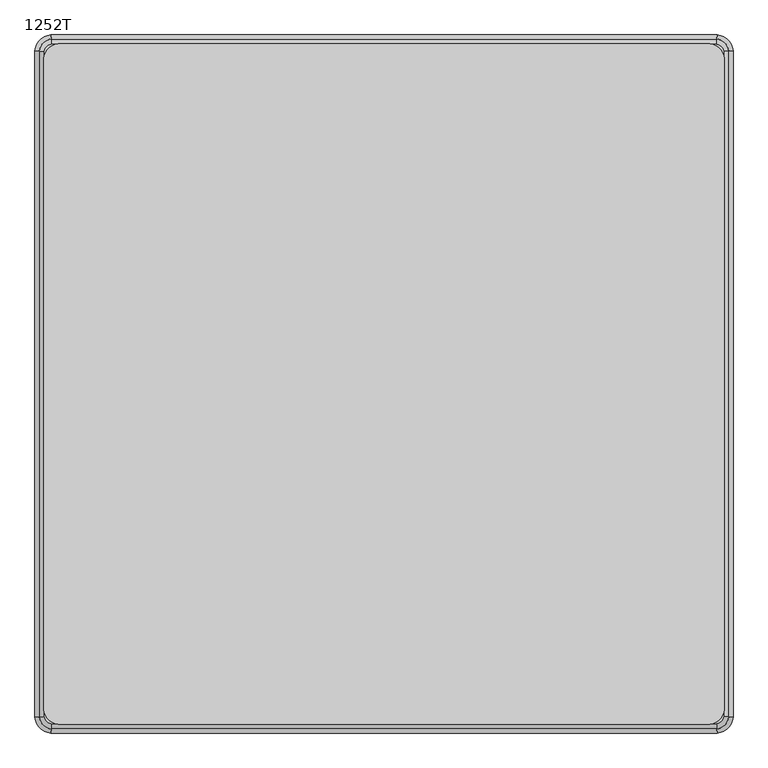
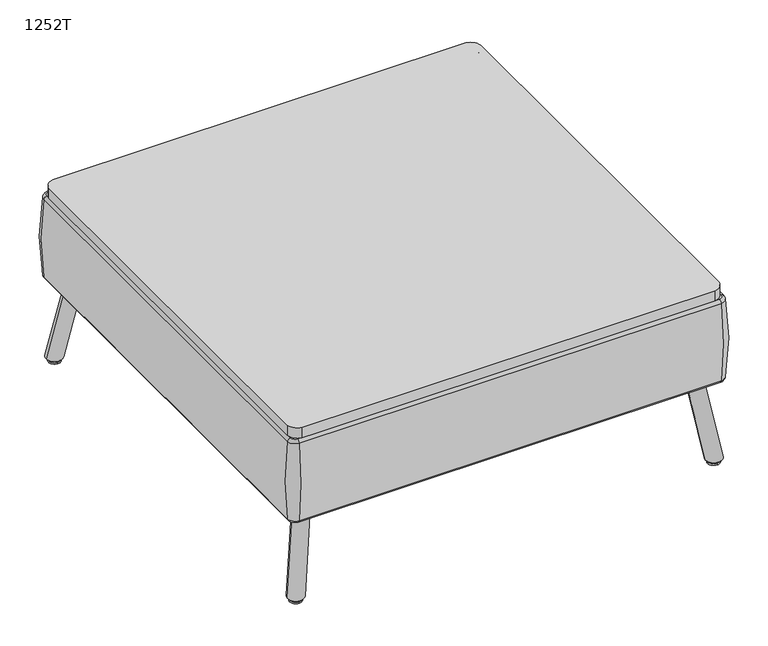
"""IFC4 building model written with IfcOpenShell, lengths in millimetres: furniture geometry, Laguna-Square_Ottomans-With_Legs-ERG : 1252T."""

from ifc_helpers import new_model, si_unit, point, frame, frame_2d, origin, place, context, project, spatial, polyline, circle_curve, ellipse_curve, trimmed, segment, composite_curve, outline, extrude, source, transform, mapped, element, save
from ifc_brep_helpers import plane_surface, cylinder_surface, revolved_surface, spline_surface, advanced_brep


def furniture_1252t_70c4c174(model_context):
    return source(origin(), model_context, "Body", "SolidModel", [
        extrude(outline(composite_curve([segment(trimmed(circle_curve(frame_2d((-3881.4372587, 452.8509326)), 25.4), [point((-3856.3001244, 449.2061449))], [point((-3877.792471, 427.7137983))], False, "CARTESIAN"), True, "CONTINUOUS"), segment(trimmed(circle_curve(frame_2d((-4357.9421763, 6765.4759155)), 6355.9241967), [point((-3877.792471, 427.7137983))], [point((-4838.0918816, 427.7137983))], False, "CARTESIAN"), True, "CONTINUOUS"), segment(trimmed(circle_curve(frame_2d((-4834.4470939, 452.8509326)), 25.4), [point((-4838.0918816, 427.7137983))], [point((-4859.5842282, 449.2061449))], False, "CARTESIAN"), True, "CONTINUOUS"), segment(trimmed(circle_curve(frame_2d((1478.177889, 929.3558502)), 6355.9241967), [point((-4859.5842282, 449.2061449))], [point((-4859.5842282, 1409.5055555))], False, "CARTESIAN"), True, "CONTINUOUS"), segment(trimmed(circle_curve(frame_2d((-4834.4470939, 1405.8607677)), 25.4), [point((-4859.5842282, 1409.5055555))], [point((-4838.0918816, 1430.9979021))], False, "CARTESIAN"), True, "CONTINUOUS"), segment(trimmed(circle_curve(frame_2d((-4357.9421763, -4906.7642152)), 6355.9241967), [point((-4838.0918816, 1430.9979021))], [point((-3877.792471, 1430.9979021))], False, "CARTESIAN"), True, "CONTINUOUS"), segment(trimmed(circle_curve(frame_2d((-3881.4372587, 1405.8607677)), 25.4), [point((-3877.792471, 1430.9979021))], [point((-3856.3001244, 1409.5055555))], False, "CARTESIAN"), True, "CONTINUOUS"), segment(trimmed(circle_curve(frame_2d((-10194.0622416, 929.3558502)), 6355.9241967), [point((-3856.3001244, 1409.5055555))], [point((-3856.3001244, 449.2061449))], False, "CARTESIAN"), True, "CONTINUOUS")], self_intersect=False)), frame((0.0, 0.0, 406.4), z_axis=(0.0, 0.0, 1.0), x_axis=(1.0, 0.0, 0.0)), (0.0, 0.0, 1.0), 25.4),
        advanced_brep(
        [(-4847.9816838, 1430.0057923, 406.4), (-4858.5921184, 1419.3953577, 406.4), (-4858.5921184, 439.3163426, 406.4), (-4847.9816838, 428.705908, 406.4), (-3867.9026688, 428.705908, 406.4), (-3857.2922342, 439.3163426, 406.4), (-3857.2922342, 1419.3953577, 406.4), (-3867.9026688, 1430.0057923, 406.4), (-4858.5921184, 1419.3953577, 203.2), (-4847.9816838, 1430.0057923, 203.2), (-3867.9026688, 1430.0057923, 203.2), (-3857.2922342, 1419.3953577, 203.2), (-3857.2922342, 439.3163426, 203.2), (-3867.9026688, 428.705908, 203.2), (-4847.9816838, 428.705908, 203.2), (-4858.5921184, 439.3163426, 203.2), (-4866.1226616, 1419.9765501, 399.7887299), (-4848.5628762, 1437.5363354, 399.7887299), (-4848.5628762, 1437.5363354, 209.8112701), (-4866.1226616, 1419.9765501, 209.8112701), (-4866.1226616, 438.7351503, 209.8112701), (-4866.1226616, 438.7351503, 399.7887299), (-4848.5628762, 421.1753649, 209.8112701), (-4848.5628762, 421.1753649, 399.7887299), (-3867.3214764, 421.1753649, 209.8112701), (-3867.3214764, 421.1753649, 399.7887299), (-3849.7616911, 438.7351503, 209.8112701), (-3849.7616911, 438.7351503, 399.7887299), (-3849.7616911, 1419.9765501, 209.8112701), (-3849.7616911, 1419.9765501, 399.7887299), (-3867.3214764, 1437.5363354, 209.8112701), (-3867.3214764, 1437.5363354, 399.7887299)],
        [
            (0, 1, circle_curve(frame((-4847.0943054, 1418.5079793, 406.4), z_axis=(0.0, 0.0, 1.0), x_axis=(-0.07694918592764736, 0.997035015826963, 0.0)), 11.5320052)),
            (1, 2, circle_curve(frame((1490.877889, 929.3558502, 406.4), z_axis=(0.0, 0.0, 1.0), x_axis=(-0.9970350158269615, 0.07694918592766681, 0.0)), 6368.3520706)),
            (2, 3, circle_curve(frame((-4847.0943054, 440.2037211, 406.4), z_axis=(0.0, 0.0, 1.0), x_axis=(-0.9970350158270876, -0.07694918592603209, 0.0)), 11.5320052)),
            (3, 4, circle_curve(frame((-4357.9421763, 6778.1759155, 406.4), z_axis=(0.0, 0.0, 1.0), x_axis=(-0.07694918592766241, -0.9970350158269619, 0.0)), 6368.3520706)),
            (4, 5, circle_curve(frame((-3868.7900472, 440.2037211, 406.4), z_axis=(0.0, 0.0, 1.0), x_axis=(0.07694918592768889, -0.9970350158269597, 0.0)), 11.5320052)),
            (5, 6, circle_curve(frame((-10206.7622416, 929.3558502, 406.4), z_axis=(0.0, 0.0, 1.0), x_axis=(0.9970350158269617, -0.07694918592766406, 0.0)), 6368.3520706)),
            (6, 7, circle_curve(frame((-3868.7900472, 1418.5079793, 406.4), z_axis=(0.0, 0.0, 1.0), x_axis=(0.997035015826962, 0.07694918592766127, 0.0)), 11.5320052)),
            (7, 0, circle_curve(frame((-4357.9421763, -4919.4642152, 406.4), z_axis=(0.0, 0.0, 1.0), x_axis=(0.07694918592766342, 0.9970350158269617, 0.0)), 6368.3520706)),
            (8, 9, circle_curve(frame((-4847.0943054, 1418.5079793, 203.2), z_axis=(0.0, 0.0, -1.0), x_axis=(-0.07694918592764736, 0.997035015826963, 0.0)), 11.5320052)),
            (9, 10, circle_curve(frame((-4357.9421763, -4919.4642152, 203.2), z_axis=(0.0, 0.0, -1.0), x_axis=(0.07694918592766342, 0.9970350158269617, 0.0)), 6368.3520706)),
            (10, 11, circle_curve(frame((-3868.7900472, 1418.5079793, 203.2), z_axis=(0.0, 0.0, -1.0), x_axis=(0.997035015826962, 0.07694918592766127, 0.0)), 11.5320052)),
            (11, 12, circle_curve(frame((-10206.7622416, 929.3558502, 203.2), z_axis=(0.0, 0.0, -1.0), x_axis=(0.9970350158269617, -0.07694918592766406, 0.0)), 6368.3520706)),
            (12, 13, circle_curve(frame((-3868.7900472, 440.2037211, 203.2), z_axis=(0.0, 0.0, -1.0), x_axis=(0.07694918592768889, -0.9970350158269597, 0.0)), 11.5320052)),
            (13, 14, circle_curve(frame((-4357.9421763, 6778.1759155, 203.2), z_axis=(0.0, 0.0, -1.0), x_axis=(-0.07694918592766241, -0.9970350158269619, 0.0)), 6368.3520706)),
            (14, 15, circle_curve(frame((-4847.0943054, 440.2037211, 203.2), z_axis=(0.0, 0.0, -1.0), x_axis=(-0.9970350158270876, -0.07694918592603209, 0.0)), 11.5320052)),
            (15, 8, circle_curve(frame((1490.877889, 929.3558502, 203.2), z_axis=(0.0, 0.0, -1.0), x_axis=(-0.9970350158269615, 0.07694918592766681, 0.0)), 6368.3520706)),
            (16, 17, circle_curve(frame((-4847.0943054, 1418.5079793, 399.7887299), z_axis=(0.0, 0.0, -1.0), x_axis=(-0.07694918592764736, 0.997035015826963, 0.0)), 19.0849427)),
            (17, 18, circle_curve(frame((-4793.8339264, 728.4101931, 304.8), z_axis=(-0.997035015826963, -0.07694918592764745, 0.0), x_axis=(0.07694918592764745, -0.997035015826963, 0.0)), 717.55)),
            (18, 19, circle_curve(frame((-4847.0943054, 1418.5079793, 209.8112701), z_axis=(0.0, 0.0, 1.0), x_axis=(-0.07694918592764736, 0.997035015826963, 0.0)), 19.0849427)),
            (19, 16, circle_curve(frame((-4156.9965192, 1365.2476002, 304.8), z_axis=(0.07694918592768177, 0.9970350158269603, 0.0), x_axis=(0.9970350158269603, -0.07694918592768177, 0.0)), 717.55)),
            (16, 1, circle_curve(frame((-4858.5921184, 1419.3953577, 398.78), z_axis=(0.07694918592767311, 0.997035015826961, 0.0), x_axis=(0.997035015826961, -0.07694918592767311, 0.0)), 7.62)),
            (0, 17, circle_curve(frame((-4847.9816838, 1430.0057923, 398.78), z_axis=(-0.997035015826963, -0.07694918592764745, 0.0), x_axis=(0.07694918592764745, -0.997035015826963, 0.0)), 7.62)),
            (18, 9, circle_curve(frame((-4847.9816838, 1430.0057923, 210.82), z_axis=(-0.997035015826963, -0.07694918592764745, 0.0), x_axis=(0.07694918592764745, -0.997035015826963, 0.0)), 7.62)),
            (8, 19, circle_curve(frame((-4858.5921184, 1419.3953577, 210.82), z_axis=(0.07694918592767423, 0.9970350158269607, 0.0), x_axis=(0.9970350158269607, -0.07694918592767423, 0.0)), 7.62)),
            (19, 20, circle_curve(frame((1490.877889, 929.3558502, 209.8112701), z_axis=(0.0, 0.0, 1.0), x_axis=(-0.9970350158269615, 0.07694918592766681, 0.0)), 6375.905008)),
            (20, 21, circle_curve(frame((-4156.9965192, 493.4641001, 304.8), z_axis=(-0.07694918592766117, 0.997035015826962, 0.0), x_axis=(0.997035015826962, 0.07694918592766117, 0.0)), 717.55)),
            (21, 16, circle_curve(frame((1490.877889, 929.3558502, 399.7887299), z_axis=(0.0, 0.0, -1.0), x_axis=(-0.9970350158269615, 0.07694918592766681, 0.0)), 6375.905008)),
            (21, 2, circle_curve(frame((-4858.5921184, 439.3163426, 398.78), z_axis=(-0.07694918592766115, 0.997035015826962, 0.0), x_axis=(0.997035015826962, 0.07694918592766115, 0.0)), 7.62)),
            (15, 20, circle_curve(frame((-4858.5921184, 439.3163426, 210.82), z_axis=(-0.07694918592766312, 0.9970350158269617, 0.0), x_axis=(0.9970350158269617, 0.07694918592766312, 0.0)), 7.62)),
            (20, 22, circle_curve(frame((-4847.0943054, 440.2037211, 209.8112701), z_axis=(0.0, 0.0, 1.0), x_axis=(-0.9970350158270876, -0.07694918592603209, 0.0)), 19.0849427)),
            (22, 23, circle_curve(frame((-4793.8339264, 1130.3015072, 304.8), z_axis=(-0.9970350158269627, 0.07694918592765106, 0.0), x_axis=(0.07694918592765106, 0.9970350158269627, 0.0)), 717.55)),
            (23, 21, circle_curve(frame((-4847.0943054, 440.2037211, 399.7887299), z_axis=(0.0, 0.0, -1.0), x_axis=(-0.9970350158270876, -0.07694918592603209, 0.0)), 19.0849427)),
            (23, 3, circle_curve(frame((-4847.9816838, 428.705908, 398.78), z_axis=(-0.9970350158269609, 0.07694918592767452, 0.0), x_axis=(0.07694918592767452, 0.9970350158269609, 0.0)), 7.62)),
            (14, 22, circle_curve(frame((-4847.9816838, 428.705908, 210.82), z_axis=(-0.9970350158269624, 0.07694918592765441, 0.0), x_axis=(0.07694918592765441, 0.9970350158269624, 0.0)), 7.62)),
            (22, 24, circle_curve(frame((-4357.9421763, 6778.1759155, 209.8112701), z_axis=(0.0, 0.0, 1.0), x_axis=(-0.07694918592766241, -0.9970350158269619, 0.0)), 6375.905008)),
            (24, 25, circle_curve(frame((-3922.0504262, 1130.3015072, 304.8), z_axis=(-0.9970350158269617, -0.07694918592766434, 0.0), x_axis=(-0.07694918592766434, 0.9970350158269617, 0.0)), 717.55)),
            (25, 23, circle_curve(frame((-4357.9421763, 6778.1759155, 399.7887299), z_axis=(0.0, 0.0, -1.0), x_axis=(-0.07694918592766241, -0.9970350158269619, 0.0)), 6375.905008)),
            (25, 4, circle_curve(frame((-3867.9026688, 428.705908, 398.78), z_axis=(-0.9970350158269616, -0.07694918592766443, 0.0), x_axis=(-0.07694918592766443, 0.9970350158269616, 0.0)), 7.62)),
            (13, 24, circle_curve(frame((-3867.9026688, 428.705908, 210.82), z_axis=(-0.9970350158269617, -0.07694918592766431, 0.0), x_axis=(-0.07694918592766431, 0.9970350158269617, 0.0)), 7.62)),
            (24, 26, circle_curve(frame((-3868.7900472, 440.2037211, 209.8112701), z_axis=(0.0, 0.0, 1.0), x_axis=(0.07694918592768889, -0.9970350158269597, 0.0)), 19.0849427)),
            (26, 27, circle_curve(frame((-4558.8878334, 493.4641001, 304.8), z_axis=(-0.0769491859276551, -0.9970350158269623, 0.0), x_axis=(-0.9970350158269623, 0.0769491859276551, 0.0)), 717.55)),
            (27, 25, circle_curve(frame((-3868.7900472, 440.2037211, 399.7887299), z_axis=(0.0, 0.0, -1.0), x_axis=(0.07694918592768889, -0.9970350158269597, 0.0)), 19.0849427)),
            (27, 5, circle_curve(frame((-3857.2922342, 439.3163426, 398.78), z_axis=(-0.07694918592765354, -0.9970350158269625, 0.0), x_axis=(-0.9970350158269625, 0.07694918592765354, 0.0)), 7.62)),
            (12, 26, circle_curve(frame((-3857.2922342, 439.3163426, 210.82), z_axis=(-0.07694918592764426, -0.9970350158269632, 0.0), x_axis=(-0.9970350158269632, 0.07694918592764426, 0.0)), 7.62)),
            (26, 28, circle_curve(frame((-10206.7622416, 929.3558502, 209.8112701), z_axis=(0.0, 0.0, 1.0), x_axis=(0.9970350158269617, -0.07694918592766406, 0.0)), 6375.905008)),
            (28, 29, circle_curve(frame((-4558.8878334, 1365.2476002, 304.8), z_axis=(0.07694918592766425, -0.9970350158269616, 0.0), x_axis=(-0.9970350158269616, -0.07694918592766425, 0.0)), 717.55)),
            (29, 27, circle_curve(frame((-10206.7622416, 929.3558502, 399.7887299), z_axis=(0.0, 0.0, -1.0), x_axis=(0.9970350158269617, -0.07694918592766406, 0.0)), 6375.905008)),
            (29, 6, circle_curve(frame((-3857.2922342, 1419.3953577, 398.78), z_axis=(0.07694918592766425, -0.9970350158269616, 0.0), x_axis=(-0.9970350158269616, -0.07694918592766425, 0.0)), 7.62)),
            (11, 28, circle_curve(frame((-3857.2922342, 1419.3953577, 210.82), z_axis=(0.07694918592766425, -0.9970350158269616, 0.0), x_axis=(-0.9970350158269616, -0.07694918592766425, 0.0)), 7.62)),
            (28, 30, circle_curve(frame((-3868.7900472, 1418.5079793, 209.8112701), z_axis=(0.0, 0.0, 1.0), x_axis=(0.997035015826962, 0.07694918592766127, 0.0)), 19.0849427)),
            (30, 31, circle_curve(frame((-3922.0504262, 728.4101931, 304.8), z_axis=(0.9970350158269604, -0.07694918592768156, 0.0), x_axis=(-0.07694918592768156, -0.9970350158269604, 0.0)), 717.55)),
            (31, 29, circle_curve(frame((-3868.7900472, 1418.5079793, 399.7887299), z_axis=(0.0, 0.0, -1.0), x_axis=(0.997035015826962, 0.07694918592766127, 0.0)), 19.0849427)),
            (31, 7, circle_curve(frame((-3867.9026688, 1430.0057923, 398.78), z_axis=(0.9970350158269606, -0.07694918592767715, 0.0), x_axis=(-0.07694918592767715, -0.9970350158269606, 0.0)), 7.62)),
            (10, 30, circle_curve(frame((-3867.9026688, 1430.0057923, 210.82), z_axis=(0.9970350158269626, -0.07694918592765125, 0.0), x_axis=(-0.07694918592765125, -0.9970350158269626, 0.0)), 7.62)),
            (17, 31, circle_curve(frame((-4357.9421763, -4919.4642152, 399.7887299), z_axis=(0.0, 0.0, -1.0), x_axis=(0.07694918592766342, 0.9970350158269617, 0.0)), 6375.905008)),
            (30, 18, circle_curve(frame((-4357.9421763, -4919.4642152, 209.8112701), z_axis=(0.0, 0.0, 1.0), x_axis=(0.07694918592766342, 0.9970350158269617, 0.0)), 6375.905008)),
        ],
        [
            plane_surface(frame((-4835.5623002, 1418.5079793, 406.4), z_axis=(0.0, 0.0, 1.0), x_axis=(0.0, 1.0, 0.0))),
            plane_surface(frame((-4835.5623002, 1418.5079793, 203.2), z_axis=(0.0, 0.0, -1.0), x_axis=(0.0, -1.0, 0.0))),
            revolved_surface(trimmed(ellipse_curve(frame((-4793.8339264, 728.4101931, 304.8), z_axis=(0.997035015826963, 0.07694918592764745, 0.0), x_axis=(0.07694918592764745, -0.997035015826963, 0.0)), 717.55, 717.55), [point((-4848.5628762, 1437.5363354, 209.8112701))], [point((-4848.5628762, 1437.5363354, 399.7887299))], True, "CARTESIAN"), (-4847.0943054, 1418.5079793, 0.0), (0.0, 0.0, 1.0)),
            revolved_surface(trimmed(ellipse_curve(frame((-4847.9816838, 1430.0057923, 398.78), z_axis=(0.997035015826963, 0.07694918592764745, 0.0), x_axis=(0.07694918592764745, -0.997035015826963, 0.0)), 7.62, 7.62), [point((-4848.5628762, 1437.5363354, 399.7887299))], [point((-4847.9816838, 1430.0057923, 406.4))], True, "CARTESIAN"), (-4847.0943054, 1418.5079793, 0.0), (0.0, 0.0, 1.0)),
            revolved_surface(trimmed(ellipse_curve(frame((-4847.9816838, 1430.0057923, 210.82), z_axis=(0.997035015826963, 0.07694918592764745, 0.0), x_axis=(0.07694918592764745, -0.997035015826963, 0.0)), 7.62, 7.62), [point((-4847.9816838, 1430.0057923, 203.2))], [point((-4848.5628762, 1437.5363354, 209.8112701))], True, "CARTESIAN"), (-4847.0943054, 1418.5079793, 0.0), (0.0, 0.0, 1.0)),
            revolved_surface(trimmed(ellipse_curve(frame((-4156.9965192, 1365.2476002, 304.8), z_axis=(0.07694918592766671, 0.9970350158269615, 0.0), x_axis=(0.9970350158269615, -0.07694918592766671, 0.0)), 717.55, 717.55), [point((-4866.1226616, 1419.9765501, 209.8112701))], [point((-4866.1226616, 1419.9765501, 399.7887299))], True, "CARTESIAN"), (1490.877889, 929.3558502, 0.0), (0.0, 0.0, 1.0)),
            revolved_surface(trimmed(ellipse_curve(frame((-4858.5921184, 1419.3953577, 398.78), z_axis=(0.07694918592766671, 0.9970350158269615, 0.0), x_axis=(0.9970350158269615, -0.07694918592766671, 0.0)), 7.62, 7.62), [point((-4866.1226616, 1419.9765501, 399.7887299))], [point((-4858.5921184, 1419.3953577, 406.4))], True, "CARTESIAN"), (1490.877889, 929.3558502, 0.0), (0.0, 0.0, 1.0)),
            revolved_surface(trimmed(ellipse_curve(frame((-4858.5921184, 1419.3953577, 210.82), z_axis=(0.07694918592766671, 0.9970350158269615, 0.0), x_axis=(0.9970350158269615, -0.07694918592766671, 0.0)), 7.62, 7.62), [point((-4858.5921184, 1419.3953577, 203.2))], [point((-4866.1226616, 1419.9765501, 209.8112701))], True, "CARTESIAN"), (1490.877889, 929.3558502, 0.0), (0.0, 0.0, 1.0)),
            revolved_surface(trimmed(ellipse_curve(frame((-4156.9965192, 493.4641001, 304.8), z_axis=(-0.07694918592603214, 0.9970350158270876, 0.0), x_axis=(0.9970350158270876, 0.07694918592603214, 0.0)), 717.55, 717.55), [point((-4866.1226616, 438.7351503, 209.8112701))], [point((-4866.1226616, 438.7351503, 399.7887299))], True, "CARTESIAN"), (-4847.0943054, 440.2037211, 0.0), (0.0, 0.0, 1.0)),
            revolved_surface(trimmed(ellipse_curve(frame((-4858.5921184, 439.3163426, 398.78), z_axis=(-0.07694918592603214, 0.9970350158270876, 0.0), x_axis=(0.9970350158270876, 0.07694918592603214, 0.0)), 7.62, 7.62), [point((-4866.1226616, 438.7351503, 399.7887299))], [point((-4858.5921184, 439.3163426, 406.4))], True, "CARTESIAN"), (-4847.0943054, 440.2037211, 0.0), (0.0, 0.0, 1.0)),
            revolved_surface(trimmed(ellipse_curve(frame((-4858.5921184, 439.3163426, 210.82), z_axis=(-0.07694918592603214, 0.9970350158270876, 0.0), x_axis=(0.9970350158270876, 0.07694918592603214, 0.0)), 7.62, 7.62), [point((-4858.5921184, 439.3163426, 203.2))], [point((-4866.1226616, 438.7351503, 209.8112701))], True, "CARTESIAN"), (-4847.0943054, 440.2037211, 0.0), (0.0, 0.0, 1.0)),
            revolved_surface(trimmed(ellipse_curve(frame((-4793.8339264, 1130.3015072, 304.8), z_axis=(-0.9970350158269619, 0.07694918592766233, 0.0), x_axis=(0.07694918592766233, 0.9970350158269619, 0.0)), 717.55, 717.55), [point((-4848.5628762, 421.1753649, 209.8112701))], [point((-4848.5628762, 421.1753649, 399.7887299))], True, "CARTESIAN"), (-4357.9421763, 6778.1759155, 0.0), (0.0, 0.0, 1.0)),
            revolved_surface(trimmed(ellipse_curve(frame((-4847.9816838, 428.705908, 398.78), z_axis=(-0.9970350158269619, 0.07694918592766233, 0.0), x_axis=(0.07694918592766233, 0.9970350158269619, 0.0)), 7.62, 7.62), [point((-4848.5628762, 421.1753649, 399.7887299))], [point((-4847.9816838, 428.705908, 406.4))], True, "CARTESIAN"), (-4357.9421763, 6778.1759155, 0.0), (0.0, 0.0, 1.0)),
            revolved_surface(trimmed(ellipse_curve(frame((-4847.9816838, 428.705908, 210.82), z_axis=(-0.9970350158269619, 0.07694918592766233, 0.0), x_axis=(0.07694918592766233, 0.9970350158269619, 0.0)), 7.62, 7.62), [point((-4847.9816838, 428.705908, 203.2))], [point((-4848.5628762, 421.1753649, 209.8112701))], True, "CARTESIAN"), (-4357.9421763, 6778.1759155, 0.0), (0.0, 0.0, 1.0)),
            revolved_surface(trimmed(ellipse_curve(frame((-3922.0504262, 1130.3015072, 304.8), z_axis=(-0.9970350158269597, -0.07694918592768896, 0.0), x_axis=(-0.07694918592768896, 0.9970350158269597, 0.0)), 717.55, 717.55), [point((-3867.3214764, 421.1753649, 209.8112701))], [point((-3867.3214764, 421.1753649, 399.7887299))], True, "CARTESIAN"), (-3868.7900472, 440.2037211, 0.0), (0.0, 0.0, 1.0)),
            revolved_surface(trimmed(ellipse_curve(frame((-3867.9026688, 428.705908, 398.78), z_axis=(-0.9970350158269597, -0.07694918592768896, 0.0), x_axis=(-0.07694918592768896, 0.9970350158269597, 0.0)), 7.62, 7.62), [point((-3867.3214764, 421.1753649, 399.7887299))], [point((-3867.9026688, 428.705908, 406.4))], True, "CARTESIAN"), (-3868.7900472, 440.2037211, 0.0), (0.0, 0.0, 1.0)),
            revolved_surface(trimmed(ellipse_curve(frame((-3867.9026688, 428.705908, 210.82), z_axis=(-0.9970350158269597, -0.07694918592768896, 0.0), x_axis=(-0.07694918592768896, 0.9970350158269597, 0.0)), 7.62, 7.62), [point((-3867.9026688, 428.705908, 203.2))], [point((-3867.3214764, 421.1753649, 209.8112701))], True, "CARTESIAN"), (-3868.7900472, 440.2037211, 0.0), (0.0, 0.0, 1.0)),
            revolved_surface(trimmed(ellipse_curve(frame((-4558.8878334, 493.4641001, 304.8), z_axis=(-0.07694918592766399, -0.9970350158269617, 0.0), x_axis=(-0.9970350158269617, 0.07694918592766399, 0.0)), 717.55, 717.55), [point((-3849.7616911, 438.7351503, 209.8112701))], [point((-3849.7616911, 438.7351503, 399.7887299))], True, "CARTESIAN"), (-10206.7622416, 929.3558502, 0.0), (0.0, 0.0, 1.0)),
            revolved_surface(trimmed(ellipse_curve(frame((-3857.2922342, 439.3163426, 398.78), z_axis=(-0.07694918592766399, -0.9970350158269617, 0.0), x_axis=(-0.9970350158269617, 0.07694918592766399, 0.0)), 7.62, 7.62), [point((-3849.7616911, 438.7351503, 399.7887299))], [point((-3857.2922342, 439.3163426, 406.4))], True, "CARTESIAN"), (-10206.7622416, 929.3558502, 0.0), (0.0, 0.0, 1.0)),
            revolved_surface(trimmed(ellipse_curve(frame((-3857.2922342, 439.3163426, 210.82), z_axis=(-0.07694918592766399, -0.9970350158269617, 0.0), x_axis=(-0.9970350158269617, 0.07694918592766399, 0.0)), 7.62, 7.62), [point((-3857.2922342, 439.3163426, 203.2))], [point((-3849.7616911, 438.7351503, 209.8112701))], True, "CARTESIAN"), (-10206.7622416, 929.3558502, 0.0), (0.0, 0.0, 1.0)),
            revolved_surface(trimmed(ellipse_curve(frame((-4558.8878334, 1365.2476002, 304.8), z_axis=(0.0769491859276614, -0.997035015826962, 0.0), x_axis=(-0.997035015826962, -0.0769491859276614, 0.0)), 717.55, 717.55), [point((-3849.7616911, 1419.9765501, 209.8112701))], [point((-3849.7616911, 1419.9765501, 399.7887299))], True, "CARTESIAN"), (-3868.7900472, 1418.5079793, 0.0), (0.0, 0.0, 1.0)),
            revolved_surface(trimmed(ellipse_curve(frame((-3857.2922342, 1419.3953577, 398.78), z_axis=(0.0769491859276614, -0.997035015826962, 0.0), x_axis=(-0.997035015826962, -0.0769491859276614, 0.0)), 7.62, 7.62), [point((-3849.7616911, 1419.9765501, 399.7887299))], [point((-3857.2922342, 1419.3953577, 406.4))], True, "CARTESIAN"), (-3868.7900472, 1418.5079793, 0.0), (0.0, 0.0, 1.0)),
            revolved_surface(trimmed(ellipse_curve(frame((-3857.2922342, 1419.3953577, 210.82), z_axis=(0.0769491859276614, -0.997035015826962, 0.0), x_axis=(-0.997035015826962, -0.0769491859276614, 0.0)), 7.62, 7.62), [point((-3857.2922342, 1419.3953577, 203.2))], [point((-3849.7616911, 1419.9765501, 209.8112701))], True, "CARTESIAN"), (-3868.7900472, 1418.5079793, 0.0), (0.0, 0.0, 1.0)),
            revolved_surface(trimmed(ellipse_curve(frame((-3922.0504262, 728.4101931, 304.8), z_axis=(0.9970350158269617, -0.07694918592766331, 0.0), x_axis=(-0.07694918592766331, -0.9970350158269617, 0.0)), 717.55, 717.55), [point((-3867.3214764, 1437.5363354, 209.8112701))], [point((-3867.3214764, 1437.5363354, 399.7887299))], True, "CARTESIAN"), (-4357.9421763, -4919.4642152, 0.0), (0.0, 0.0, 1.0)),
            revolved_surface(trimmed(ellipse_curve(frame((-3867.9026688, 1430.0057923, 398.78), z_axis=(0.9970350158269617, -0.07694918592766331, 0.0), x_axis=(-0.07694918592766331, -0.9970350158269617, 0.0)), 7.62, 7.62), [point((-3867.3214764, 1437.5363354, 399.7887299))], [point((-3867.9026688, 1430.0057923, 406.4))], True, "CARTESIAN"), (-4357.9421763, -4919.4642152, 0.0), (0.0, 0.0, 1.0)),
            revolved_surface(trimmed(ellipse_curve(frame((-3867.9026688, 1430.0057923, 210.82), z_axis=(0.9970350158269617, -0.07694918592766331, 0.0), x_axis=(-0.07694918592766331, -0.9970350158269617, 0.0)), 7.62, 7.62), [point((-3867.9026688, 1430.0057923, 203.2))], [point((-3867.3214764, 1437.5363354, 209.8112701))], True, "CARTESIAN"), (-4357.9421763, -4919.4642152, 0.0), (0.0, 0.0, 1.0)),
        ],
        [
            (0, [[1, 2, 3, 4, 5, 6, 7, 8]]),
            (1, [[9, 10, 11, 12, 13, 14, 15, 16]]),
            (2, [[17, 18, 19, 20]]),
            (3, [[-17, 21, -1, 22]]),
            (4, [[-19, 23, -9, 24]]),
            (5, [[-20, 25, 26, 27]]),
            (6, [[-21, -27, 28, -2]]),
            (7, [[-24, -16, 29, -25]]),
            (8, [[-26, 30, 31, 32]]),
            (9, [[-28, -32, 33, -3]]),
            (10, [[-29, -15, 34, -30]]),
            (11, [[-31, 35, 36, 37]]),
            (12, [[-33, -37, 38, -4]]),
            (13, [[-34, -14, 39, -35]]),
            (14, [[-36, 40, 41, 42]]),
            (15, [[-38, -42, 43, -5]]),
            (16, [[-39, -13, 44, -40]]),
            (17, [[-41, 45, 46, 47]]),
            (18, [[-43, -47, 48, -6]]),
            (19, [[-44, -12, 49, -45]]),
            (20, [[-46, 50, 51, 52]]),
            (21, [[-48, -52, 53, -7]]),
            (22, [[-49, -11, 54, -50]]),
            (23, [[-18, 55, -51, 56]]),
            (24, [[-22, -8, -53, -55]]),
            (25, [[-23, -56, -54, -10]]),
        ],
    ),
        extrude(outline(composite_curve([segment(trimmed(circle_curve(frame_2d((-4806.8187381, 1421.3376413)), 5.08), [point((-4810.4108405, 1424.9297438))], [point((-4803.2266356, 1424.9297438))], False, "CARTESIAN"), True, "CONTINUOUS"), segment(polyline([(-4803.2266356, 1424.9297438), (-4774.489816, 1396.1929242)]), True, "CONTINUOUS"), segment(trimmed(circle_curve(frame_2d((-4778.0819185, 1392.6008217)), 5.08), [point((-4774.489816, 1396.1929242))], [point((-4774.489816, 1389.0087193))], False, "CARTESIAN"), True, "CONTINUOUS"), segment(polyline([(-4774.489816, 1389.0087193), (-4817.5950454, 1345.9034899)]), True, "CONTINUOUS"), segment(trimmed(circle_curve(frame_2d((-4821.1871479, 1349.4955923)), 5.08), [point((-4817.5950454, 1345.9034899))], [point((-4824.7792503, 1345.9034899))], False, "CARTESIAN"), True, "CONTINUOUS"), segment(polyline([(-4824.7792503, 1345.9034899), (-4853.5160699, 1374.6403095)]), True, "CONTINUOUS"), segment(trimmed(circle_curve(frame_2d((-4849.9239674, 1378.2324119)), 5.08), [point((-4853.5160699, 1374.6403095))], [point((-4853.5160699, 1381.8245144))], False, "CARTESIAN"), True, "CONTINUOUS"), segment(polyline([(-4853.5160699, 1381.8245144), (-4810.4108405, 1424.9297438)]), True, "CONTINUOUS")], self_intersect=False)), frame((0.0, 0.0, 200.66), z_axis=(0.0, 0.0, 1.0), x_axis=(1.0, 0.0, 0.0)), (0.0, 0.0, 1.0), 2.54),
        extrude(outline(composite_curve([segment(polyline([(-3905.4735121, 1424.9297438), (-3862.3682827, 1381.8245144)]), True, "CONTINUOUS"), segment(trimmed(circle_curve(frame_2d((-3865.9603852, 1378.2324119)), 5.08), [point((-3862.3682827, 1381.8245144))], [point((-3862.3682827, 1374.6403095))], False, "CARTESIAN"), True, "CONTINUOUS"), segment(polyline([(-3862.3682827, 1374.6403095), (-3891.1051023, 1345.9034899)]), True, "CONTINUOUS"), segment(trimmed(circle_curve(frame_2d((-3894.6972048, 1349.4955923)), 5.08), [point((-3891.1051023, 1345.9034899))], [point((-3898.2893072, 1345.9034899))], False, "CARTESIAN"), True, "CONTINUOUS"), segment(polyline([(-3898.2893072, 1345.9034899), (-3941.3945366, 1389.0087193)]), True, "CONTINUOUS"), segment(trimmed(circle_curve(frame_2d((-3937.8024341, 1392.6008217)), 5.08), [point((-3941.3945366, 1389.0087193))], [point((-3941.3945366, 1396.1929242))], False, "CARTESIAN"), True, "CONTINUOUS"), segment(polyline([(-3941.3945366, 1396.1929242), (-3912.657717, 1424.9297438)]), True, "CONTINUOUS"), segment(trimmed(circle_curve(frame_2d((-3909.0656145, 1421.3376413)), 5.08), [point((-3912.657717, 1424.9297438))], [point((-3905.4735121, 1424.9297438))], False, "CARTESIAN"), True, "CONTINUOUS")], self_intersect=False)), frame((0.0, 0.0, 200.66), z_axis=(0.0, 0.0, 1.0), x_axis=(1.0, 0.0, 0.0)), (0.0, 0.0, 1.0), 2.54),
        extrude(outline(composite_curve([segment(trimmed(circle_curve(frame_2d((-3865.9603852, 480.4792884)), 5.08), [point((-3862.3682827, 484.0713909))], [point((-3862.3682827, 476.887186))], False, "CARTESIAN"), True, "CONTINUOUS"), segment(polyline([(-3862.3682827, 476.887186), (-3905.4735121, 433.7819566)]), True, "CONTINUOUS"), segment(trimmed(circle_curve(frame_2d((-3909.0656145, 437.374059)), 5.08), [point((-3905.4735121, 433.7819566))], [point((-3912.657717, 433.7819566))], False, "CARTESIAN"), True, "CONTINUOUS"), segment(polyline([(-3912.657717, 433.7819566), (-3941.3945366, 462.5187762)]), True, "CONTINUOUS"), segment(trimmed(circle_curve(frame_2d((-3937.8024341, 466.1108786)), 5.08), [point((-3941.3945366, 462.5187762))], [point((-3941.3945366, 469.7029811))], False, "CARTESIAN"), True, "CONTINUOUS"), segment(polyline([(-3941.3945366, 469.7029811), (-3898.2893072, 512.8082105)]), True, "CONTINUOUS"), segment(trimmed(circle_curve(frame_2d((-3894.6972048, 509.216108)), 5.08), [point((-3898.2893072, 512.8082105))], [point((-3891.1051023, 512.8082105))], False, "CARTESIAN"), True, "CONTINUOUS"), segment(polyline([(-3891.1051023, 512.8082105), (-3862.3682827, 484.0713909)]), True, "CONTINUOUS")], self_intersect=False)), frame((0.0, 0.0, 200.66), z_axis=(0.0, 0.0, 1.0), x_axis=(1.0, 0.0, 0.0)), (0.0, 0.0, 1.0), 2.54),
        extrude(outline(composite_curve([segment(polyline([(-4817.5950454, 512.8082105), (-4774.489816, 469.7029811)]), True, "CONTINUOUS"), segment(trimmed(circle_curve(frame_2d((-4778.0819185, 466.1108786)), 5.08), [point((-4774.489816, 469.7029811))], [point((-4774.489816, 462.5187762))], False, "CARTESIAN"), True, "CONTINUOUS"), segment(polyline([(-4774.489816, 462.5187762), (-4803.2266356, 433.7819566)]), True, "CONTINUOUS"), segment(trimmed(circle_curve(frame_2d((-4806.8187381, 437.374059)), 5.08), [point((-4803.2266356, 433.7819566))], [point((-4810.4108405, 433.7819566))], False, "CARTESIAN"), True, "CONTINUOUS"), segment(polyline([(-4810.4108405, 433.7819566), (-4853.5160699, 476.887186)]), True, "CONTINUOUS"), segment(trimmed(circle_curve(frame_2d((-4849.9239674, 480.4792884)), 5.08), [point((-4853.5160699, 476.887186))], [point((-4853.5160699, 484.0713909))], False, "CARTESIAN"), True, "CONTINUOUS"), segment(polyline([(-4853.5160699, 484.0713909), (-4824.7792503, 512.8082105)]), True, "CONTINUOUS"), segment(trimmed(circle_curve(frame_2d((-4821.1871479, 509.216108)), 5.08), [point((-4824.7792503, 512.8082105))], [point((-4817.5950454, 512.8082105))], False, "CARTESIAN"), True, "CONTINUOUS")], self_intersect=False)), frame((0.0, 0.0, 200.66), z_axis=(0.0, 0.0, 1.0), x_axis=(1.0, 0.0, 0.0)), (0.0, 0.0, 1.0), 2.54),
        advanced_brep(
        [(-4843.7048436, 447.836231, 10.16), (-4843.7048436, 439.3501347, 10.16), (-4843.7048436, 439.3501347, 3.9615026), (-4843.7048436, 447.836231, 3.9615026), (-4843.7048436, 429.5148294, 3.9615026), (-4843.7048436, 457.6715363, 3.9615026), (-4843.7048436, 429.5148294, 0.0), (-4843.7048436, 457.6715363, 0.0), (-4843.7048436, 443.5931828, 0.0), (-4843.7048436, 443.5931828, 10.16)],
        [
            (0, 1, circle_curve(frame((-4843.7048436, 443.5931828, 10.16), z_axis=(0.0, 0.0, -1.0), x_axis=(0.0, -1.0, 0.0)), 4.2430482)),
            (1, 2),
            (2, 3, circle_curve(frame((-4843.7048436, 443.5931828, 3.9615026), z_axis=(0.0, 0.0, 1.0), x_axis=(0.0, -1.0, 0.0)), 4.2430482)),
            (3, 0),
            (1, 0, circle_curve(frame((-4843.7048436, 443.5931828, 10.16), z_axis=(0.0, 0.0, -1.0), x_axis=(0.0, -1.0, 0.0)), 4.2430482)),
            (3, 2, circle_curve(frame((-4843.7048436, 443.5931828, 3.9615026), z_axis=(0.0, 0.0, 1.0), x_axis=(0.0, -1.0, 0.0)), 4.2430482)),
            (2, 4),
            (4, 5, circle_curve(frame((-4843.7048436, 443.5931828, 3.9615026), z_axis=(0.0, 0.0, 1.0), x_axis=(0.0, -1.0, 0.0)), 14.0783534)),
            (5, 3),
            (5, 4, circle_curve(frame((-4843.7048436, 443.5931828, 3.9615026), z_axis=(0.0, 0.0, 1.0), x_axis=(0.0, -1.0, 0.0)), 14.0783534)),
            (4, 6),
            (6, 7, circle_curve(frame((-4843.7048436, 443.5931828, 0.0), z_axis=(0.0, 0.0, 1.0), x_axis=(0.0, -1.0, 0.0)), 14.0783534)),
            (7, 5),
            (7, 6, circle_curve(frame((-4843.7048436, 443.5931828, 0.0), z_axis=(0.0, 0.0, 1.0), x_axis=(0.0, -1.0, 0.0)), 14.0783534)),
            (6, 8),
            (8, 7),
            (9, 1),
            (0, 9),
        ],
        [
            cylinder_surface(frame((-4843.7048436, 443.5931828, 20.9252452), z_axis=(0.0, 0.0, 1.0), x_axis=(0.0, -1.0, 0.0)), 4.2430482),
            plane_surface(frame((-4843.7048436, 443.5931828, 3.9615026), z_axis=(0.0, 0.0, 1.0), x_axis=(0.0, -1.0, 0.0))),
            cylinder_surface(frame((-4843.7048436, 443.5931828, 20.9252452), z_axis=(0.0, 0.0, 1.0), x_axis=(0.0, -1.0, 0.0)), 14.0783534),
            plane_surface(frame((-4843.7048436, 443.5931828, 0.0), z_axis=(0.0, 0.0, -1.0), x_axis=(0.0, -1.0, 0.0))),
            plane_surface(frame((-4843.7048436, 443.5931828, 10.16), z_axis=(0.0, 0.0, 1.0), x_axis=(0.0, -1.0, 0.0))),
        ],
        [
            (0, [[1, 2, 3, 4]]),
            (0, [[5, -4, 6, -2]]),
            (1, [[-3, 7, 8, 9]]),
            (1, [[-6, -9, 10, -7]]),
            (2, [[-8, 11, 12, 13]]),
            (2, [[-10, -13, 14, -11]]),
            (3, [[-12, 15, 16]]),
            (3, [[-14, -16, -15]]),
            (4, [[17, -1, 18]]),
            (4, [[-18, -5, -17]]),
        ],
    ),
        advanced_brep(
        [(-4843.7048436, 1419.3615656, 3.9615026), (-4843.7048436, 1410.8754693, 3.9615026), (-4843.7048436, 1401.0401641, 3.9615026), (-4843.7048436, 1429.1968709, 3.9615026), (-4843.7048436, 1401.0401641, 0.0), (-4843.7048436, 1429.1968709, 0.0), (-4843.7048436, 1415.1185175, 0.0), (-4843.7048436, 1415.1185175, 10.16), (-4843.7048436, 1410.8754693, 10.16), (-4843.7048436, 1419.3615656, 10.16)],
        [
            (0, 1, circle_curve(frame((-4843.7048436, 1415.1185175, 3.9615026), z_axis=(0.0, 0.0, -1.0), x_axis=(0.0, -1.0, 0.0)), 4.2430481)),
            (1, 2),
            (2, 3, circle_curve(frame((-4843.7048436, 1415.1185175, 3.9615026), z_axis=(0.0, 0.0, 1.0), x_axis=(0.0, -1.0, 0.0)), 14.0783534)),
            (3, 0),
            (1, 0, circle_curve(frame((-4843.7048436, 1415.1185175, 3.9615026), z_axis=(0.0, 0.0, -1.0), x_axis=(0.0, -1.0, 0.0)), 4.2430481)),
            (3, 2, circle_curve(frame((-4843.7048436, 1415.1185175, 3.9615026), z_axis=(0.0, 0.0, 1.0), x_axis=(0.0, -1.0, 0.0)), 14.0783534)),
            (2, 4),
            (4, 5, circle_curve(frame((-4843.7048436, 1415.1185175, 0.0), z_axis=(0.0, 0.0, 1.0), x_axis=(0.0, -1.0, 0.0)), 14.0783534)),
            (5, 3),
            (5, 4, circle_curve(frame((-4843.7048436, 1415.1185175, 0.0), z_axis=(0.0, 0.0, 1.0), x_axis=(0.0, -1.0, 0.0)), 14.0783534)),
            (4, 6),
            (6, 5),
            (7, 8),
            (8, 9, circle_curve(frame((-4843.7048436, 1415.1185175, 10.16), z_axis=(0.0, 0.0, 1.0), x_axis=(0.0, -1.0, 0.0)), 4.2430481)),
            (9, 7),
            (9, 8, circle_curve(frame((-4843.7048436, 1415.1185175, 10.16), z_axis=(0.0, 0.0, 1.0), x_axis=(0.0, -1.0, 0.0)), 4.2430481)),
            (8, 1),
            (0, 9),
        ],
        [
            plane_surface(frame((-4843.7048436, 1415.1185175, 3.9615026), z_axis=(0.0, 0.0, 1.0), x_axis=(0.0, -1.0, 0.0))),
            cylinder_surface(frame((-4843.7048436, 1415.1185175, 29.21), z_axis=(0.0, 0.0, 1.0), x_axis=(0.0, -1.0, 0.0)), 14.0783534),
            plane_surface(frame((-4843.7048436, 1415.1185175, 0.0), z_axis=(0.0, 0.0, -1.0), x_axis=(0.0, -1.0, 0.0))),
            plane_surface(frame((-4843.7048436, 1415.1185175, 10.16), z_axis=(0.0, 0.0, 1.0), x_axis=(0.0, -1.0, 0.0))),
            cylinder_surface(frame((-4843.7048436, 1415.1185175, 29.21), z_axis=(0.0, 0.0, 1.0), x_axis=(0.0, -1.0, 0.0)), 4.2430481),
        ],
        [
            (0, [[1, 2, 3, 4]]),
            (0, [[5, -4, 6, -2]]),
            (1, [[-3, 7, 8, 9]]),
            (1, [[-6, -9, 10, -7]]),
            (2, [[-8, 11, 12]]),
            (2, [[-10, -12, -11]]),
            (3, [[13, 14, 15]]),
            (3, [[-15, 16, -13]]),
            (4, [[-14, 17, -1, 18]]),
            (4, [[-16, -18, -5, -17]]),
        ],
    ),
        advanced_brep(
        [(-3872.179509, 447.836231, 3.9615026), (-3872.179509, 439.3501347, 3.9615026), (-3872.179509, 439.3501347, 10.16), (-3872.179509, 447.836231, 10.16), (-3872.179509, 457.6715363, 3.9615026), (-3872.179509, 429.5148294, 3.9615026), (-3872.179509, 457.6715363, 0.0), (-3872.179509, 429.5148294, 0.0), (-3872.179509, 443.5931828, 0.0), (-3872.179509, 443.5931828, 10.16)],
        [
            (0, 1, circle_curve(frame((-3872.179509, 443.5931828, 3.9615026), z_axis=(0.0, 0.0, 1.0), x_axis=(0.0, -1.0, 0.0)), 4.2430482)),
            (1, 2),
            (2, 3, circle_curve(frame((-3872.179509, 443.5931828, 10.16), z_axis=(0.0, 0.0, -1.0), x_axis=(0.0, -1.0, 0.0)), 4.2430482)),
            (3, 0),
            (1, 0, circle_curve(frame((-3872.179509, 443.5931828, 3.9615026), z_axis=(0.0, 0.0, 1.0), x_axis=(0.0, -1.0, 0.0)), 4.2430482)),
            (3, 2, circle_curve(frame((-3872.179509, 443.5931828, 10.16), z_axis=(0.0, 0.0, -1.0), x_axis=(0.0, -1.0, 0.0)), 4.2430482)),
            (4, 5, circle_curve(frame((-3872.179509, 443.5931828, 3.9615026), z_axis=(0.0, 0.0, 1.0), x_axis=(0.0, -1.0, 0.0)), 14.0783534)),
            (5, 1),
            (0, 4),
            (5, 4, circle_curve(frame((-3872.179509, 443.5931828, 3.9615026), z_axis=(0.0, 0.0, 1.0), x_axis=(0.0, -1.0, 0.0)), 14.0783534)),
            (6, 7, circle_curve(frame((-3872.179509, 443.5931828, 0.0), z_axis=(0.0, 0.0, 1.0), x_axis=(0.0, -1.0, 0.0)), 14.0783534)),
            (7, 5),
            (4, 6),
            (7, 6, circle_curve(frame((-3872.179509, 443.5931828, 0.0), z_axis=(0.0, 0.0, 1.0), x_axis=(0.0, -1.0, 0.0)), 14.0783534)),
            (8, 7),
            (6, 8),
            (2, 9),
            (9, 3),
        ],
        [
            cylinder_surface(frame((-3872.179509, 443.5931828, 20.9252452), z_axis=(0.0, 0.0, -1.0), x_axis=(0.0, -1.0, 0.0)), 4.2430482),
            plane_surface(frame((-3872.179509, 443.5931828, 3.9615026), z_axis=(0.0, 0.0, 1.0), x_axis=(0.0, -1.0, 0.0))),
            cylinder_surface(frame((-3872.179509, 443.5931828, 20.9252452), z_axis=(0.0, 0.0, -1.0), x_axis=(0.0, -1.0, 0.0)), 14.0783534),
            plane_surface(frame((-3872.179509, 443.5931828, 0.0), z_axis=(0.0, 0.0, -1.0), x_axis=(0.0, -1.0, 0.0))),
            plane_surface(frame((-3872.179509, 443.5931828, 10.16), z_axis=(0.0, 0.0, 1.0), x_axis=(0.0, -1.0, 0.0))),
        ],
        [
            (0, [[1, 2, 3, 4]]),
            (0, [[5, -4, 6, -2]]),
            (1, [[7, 8, -1, 9]]),
            (1, [[10, -9, -5, -8]]),
            (2, [[11, 12, -7, 13]]),
            (2, [[14, -13, -10, -12]]),
            (3, [[15, -11, 16]]),
            (3, [[-16, -14, -15]]),
            (4, [[-3, 17, 18]]),
            (4, [[-6, -18, -17]]),
        ],
    ),
        advanced_brep(
        [(-3872.179509, 1429.1968709, 3.9615026), (-3872.179509, 1401.0401641, 3.9615026), (-3872.179509, 1410.8754693, 3.9615026), (-3872.179509, 1419.3615656, 3.9615026), (-3872.179509, 1429.1968709, 0.0), (-3872.179509, 1401.0401641, 0.0), (-3872.179509, 1415.1185175, 0.0), (-3872.179509, 1419.3615656, 10.16), (-3872.179509, 1410.8754693, 10.16), (-3872.179509, 1415.1185175, 10.16)],
        [
            (0, 1, circle_curve(frame((-3872.179509, 1415.1185175, 3.9615026), z_axis=(0.0, 0.0, 1.0), x_axis=(0.0, -1.0, 0.0)), 14.0783534)),
            (1, 2),
            (2, 3, circle_curve(frame((-3872.179509, 1415.1185175, 3.9615026), z_axis=(0.0, 0.0, -1.0), x_axis=(0.0, -1.0, 0.0)), 4.2430481)),
            (3, 0),
            (1, 0, circle_curve(frame((-3872.179509, 1415.1185175, 3.9615026), z_axis=(0.0, 0.0, 1.0), x_axis=(0.0, -1.0, 0.0)), 14.0783534)),
            (3, 2, circle_curve(frame((-3872.179509, 1415.1185175, 3.9615026), z_axis=(0.0, 0.0, -1.0), x_axis=(0.0, -1.0, 0.0)), 4.2430481)),
            (4, 5, circle_curve(frame((-3872.179509, 1415.1185175, 0.0), z_axis=(0.0, 0.0, 1.0), x_axis=(0.0, -1.0, 0.0)), 14.0783534)),
            (5, 1),
            (0, 4),
            (5, 4, circle_curve(frame((-3872.179509, 1415.1185175, 0.0), z_axis=(0.0, 0.0, 1.0), x_axis=(0.0, -1.0, 0.0)), 14.0783534)),
            (6, 5),
            (4, 6),
            (7, 8, circle_curve(frame((-3872.179509, 1415.1185175, 10.16), z_axis=(0.0, 0.0, 1.0), x_axis=(0.0, -1.0, 0.0)), 4.2430481)),
            (8, 9),
            (9, 7),
            (8, 7, circle_curve(frame((-3872.179509, 1415.1185175, 10.16), z_axis=(0.0, 0.0, 1.0), x_axis=(0.0, -1.0, 0.0)), 4.2430481)),
            (2, 8),
            (7, 3),
        ],
        [
            plane_surface(frame((-3872.179509, 1415.1185175, 3.9615026), z_axis=(0.0, 0.0, 1.0), x_axis=(0.0, -1.0, 0.0))),
            cylinder_surface(frame((-3872.179509, 1415.1185175, 29.21), z_axis=(0.0, 0.0, -1.0), x_axis=(0.0, -1.0, 0.0)), 14.0783534),
            plane_surface(frame((-3872.179509, 1415.1185175, 0.0), z_axis=(0.0, 0.0, -1.0), x_axis=(0.0, -1.0, 0.0))),
            plane_surface(frame((-3872.179509, 1415.1185175, 10.16), z_axis=(0.0, 0.0, 1.0), x_axis=(0.0, -1.0, 0.0))),
            cylinder_surface(frame((-3872.179509, 1415.1185175, 29.21), z_axis=(0.0, 0.0, -1.0), x_axis=(0.0, -1.0, 0.0)), 4.2430481),
        ],
        [
            (0, [[1, 2, 3, 4]]),
            (0, [[5, -4, 6, -2]]),
            (1, [[7, 8, -1, 9]]),
            (1, [[10, -9, -5, -8]]),
            (2, [[11, -7, 12]]),
            (2, [[-12, -10, -11]]),
            (3, [[13, 14, 15]]),
            (3, [[16, -15, -14]]),
            (4, [[-3, 17, -13, 18]]),
            (4, [[-6, -18, -16, -17]]),
        ],
    ),
        advanced_brep(
        [(-4794.948749, 473.3091293, 203.2), (-4833.0290453, 473.3091293, 203.2), (-4824.5889568, 443.6309276, 10.16), (-4862.7452409, 443.6309276, 10.16)],
        [
            (0, 1, circle_curve(frame((-4813.9888971, 473.3091293, 203.2), z_axis=(0.0, 0.0, 1.0), x_axis=(-1.0, 0.0, 0.0)), 19.0401482)),
            (1, 0, circle_curve(frame((-4813.9888971, 473.3091293, 203.2), z_axis=(0.0, 0.0, 1.0), x_axis=(-1.0, 0.0, 0.0)), 19.0401482)),
            (2, 3, circle_curve(frame((-4843.6670988, 443.6309276, 10.16), z_axis=(0.0, 0.0, -1.0), x_axis=(-1.0, 0.0, 0.0)), 19.078142)),
            (3, 2, circle_curve(frame((-4843.6670988, 443.6309276, 10.16), z_axis=(0.0, 0.0, -1.0), x_axis=(-1.0, 0.0, 0.0)), 19.078142)),
            (2, 0),
            (1, 3),
        ],
        [
            plane_surface(frame((-4813.9888971, 473.3091293, 203.2), z_axis=(0.0, 0.0, 1.0), x_axis=(0.0, 1.0, 0.0))),
            plane_surface(frame((-4843.6670988, 443.6309276, 10.16), z_axis=(0.0, 0.0, -1.0), x_axis=(0.0, 1.0, 0.0))),
            spline_surface(2, 1, [[(-4862.7452409, 443.6309276, 10.16), (-4833.0290453, 473.3091293, 203.2)], [(-4862.7452409, 424.55278549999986, 10.16), (-4833.0290453, 454.26898110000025, 203.2)], [(-4843.6670988, 424.55278549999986, 10.16), (-4813.9888971, 454.26898110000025, 203.2)], [(-4824.5889566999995, 424.5527853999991, 10.16), (-4794.9487489, 454.26898100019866, 203.2)], [(-4824.5889568, 443.6309276, 10.16), (-4794.948749, 473.3091293, 203.2)]], [3, 2, 3], [2, 2], [0.0, 1.0, 2.0], [0.0, 1.0], weights=[[1.0, 1.0], [0.7071067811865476, 0.7071067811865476], [1.0, 1.0], [0.7071067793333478, 0.7071067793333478], [1.0, 1.0]]),
            spline_surface(2, 1, [[(-4824.5889568, 443.6309276, 10.16), (-4794.948749, 473.3091293, 203.2)], [(-4824.5889568, 462.7090695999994, 10.16), (-4794.948749, 492.3492773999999, 203.2)], [(-4843.6670988, 462.7090695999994, 10.16), (-4813.9888971, 492.3492773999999, 203.2)], [(-4862.745240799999, 462.70906949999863, 10.16), (-4833.0290452, 492.3492773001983, 203.2)], [(-4862.7452409, 443.6309276, 10.16), (-4833.0290453, 473.3091293, 203.2)]], [3, 2, 3], [2, 2], [0.0, 1.0, 2.0], [0.0, 1.0], weights=[[1.0, 1.0], [0.7071067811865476, 0.7071067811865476], [1.0, 1.0], [0.7071067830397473, 0.7071067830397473], [1.0, 1.0]]),
        ],
        [
            (0, [[1, 2]]),
            (1, [[3, 4]]),
            (2, [[-3, 5, -2, 6]]),
            (3, [[-4, -6, -1, -5]]),
        ],
    ),
        advanced_brep(
        [(-4794.948749, 1385.402571, 203.2), (-4833.0290453, 1385.402571, 203.2), (-4824.5889568, 1415.0807727, 10.16), (-4862.7452409, 1415.0807727, 10.16)],
        [
            (0, 1, circle_curve(frame((-4813.9888971, 1385.402571, 203.2), z_axis=(0.0, 0.0, 1.0), x_axis=(-1.0, 0.0, 0.0)), 19.0401482)),
            (1, 0, circle_curve(frame((-4813.9888971, 1385.402571, 203.2), z_axis=(0.0, 0.0, 1.0), x_axis=(-1.0, 0.0, 0.0)), 19.0401482)),
            (2, 3, circle_curve(frame((-4843.6670988, 1415.0807727, 10.16), z_axis=(0.0, 0.0, -1.0), x_axis=(-1.0, 0.0, 0.0)), 19.078142)),
            (3, 2, circle_curve(frame((-4843.6670988, 1415.0807727, 10.16), z_axis=(0.0, 0.0, -1.0), x_axis=(-1.0, 0.0, 0.0)), 19.078142)),
            (3, 1),
            (0, 2),
        ],
        [
            plane_surface(frame((-4813.9888971, 1385.402571, 203.2), z_axis=(0.0, 0.0, 1.0), x_axis=(0.0, 1.0, 0.0))),
            plane_surface(frame((-4843.6670988, 1415.0807727, 10.16), z_axis=(0.0, 0.0, -1.0), x_axis=(0.0, 1.0, 0.0))),
            spline_surface(2, 1, [[(-4824.5889568, 1415.0807727, 10.16), (-4794.948749, 1385.402571, 203.2)], [(-4824.5889568, 1434.1589146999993, 10.16), (-4794.948749, 1404.4427191, 203.2)], [(-4843.6670988, 1434.1589146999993, 10.16), (-4813.9888971, 1404.4427191, 203.2)], [(-4862.745240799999, 1434.1589145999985, 10.16), (-4833.0290452, 1404.4427190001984, 203.2)], [(-4862.7452409, 1415.0807727, 10.16), (-4833.0290453, 1385.402571, 203.2)]], [3, 2, 3], [2, 2], [0.0, 1.0, 2.0], [0.0, 1.0], weights=[[1.0, 1.0], [0.7071067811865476, 0.7071067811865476], [1.0, 1.0], [0.7071067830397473, 0.7071067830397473], [1.0, 1.0]]),
            spline_surface(2, 1, [[(-4862.7452409, 1415.0807727, 10.16), (-4833.0290453, 1385.402571, 203.2)], [(-4862.7452409, 1396.0026305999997, 10.16), (-4833.0290453, 1366.3624228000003, 203.2)], [(-4843.6670988, 1396.0026305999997, 10.16), (-4813.9888971, 1366.3624228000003, 203.2)], [(-4824.5889566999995, 1396.002630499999, 10.16), (-4794.9487489, 1366.3624227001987, 203.2)], [(-4824.5889568, 1415.0807727, 10.16), (-4794.948749, 1385.402571, 203.2)]], [3, 2, 3], [2, 2], [0.0, 1.0, 2.0], [0.0, 1.0], weights=[[1.0, 1.0], [0.7071067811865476, 0.7071067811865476], [1.0, 1.0], [0.7071067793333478, 0.7071067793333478], [1.0, 1.0]]),
        ],
        [
            (0, [[1, 2]]),
            (1, [[3, 4]]),
            (2, [[-4, 5, -1, 6]]),
            (3, [[-3, -6, -2, -5]]),
        ],
    ),
        advanced_brep(
        [(-3920.9356037, 1385.402571, 203.2), (-3882.8553073, 1385.402571, 203.2), (-3891.2953958, 1415.0807727, 10.16), (-3853.1391118, 1415.0807727, 10.16)],
        [
            (0, 1, circle_curve(frame((-3901.8954555, 1385.402571, 203.2), z_axis=(0.0, 0.0, 1.0), x_axis=(1.0, 0.0, 0.0)), 19.0401482)),
            (1, 0, circle_curve(frame((-3901.8954555, 1385.402571, 203.2), z_axis=(0.0, 0.0, 1.0), x_axis=(1.0, 0.0, 0.0)), 19.0401482)),
            (2, 3, circle_curve(frame((-3872.2172538, 1415.0807727, 10.16), z_axis=(0.0, 0.0, -1.0), x_axis=(1.0, 0.0, 0.0)), 19.078142)),
            (3, 2, circle_curve(frame((-3872.2172538, 1415.0807727, 10.16), z_axis=(0.0, 0.0, -1.0), x_axis=(1.0, 0.0, 0.0)), 19.078142)),
            (2, 0),
            (1, 3),
        ],
        [
            plane_surface(frame((-3901.8954555, 1385.402571, 203.2), z_axis=(0.0, 0.0, 1.0), x_axis=(0.0, -1.0, 0.0))),
            plane_surface(frame((-3872.2172538, 1415.0807727, 10.16), z_axis=(0.0, 0.0, -1.0), x_axis=(0.0, -1.0, 0.0))),
            spline_surface(2, 1, [[(-3853.1391118, 1415.0807727, 10.16), (-3882.8553073, 1385.402571, 203.2)], [(-3853.1391118, 1434.1589146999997, 10.16), (-3882.8553073, 1404.4427192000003, 203.2)], [(-3872.2172538, 1434.1589146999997, 10.16), (-3901.8954555, 1404.4427192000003, 203.2)], [(-3891.2953958, 1434.1589146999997, 10.16), (-3920.9356037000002, 1404.4427192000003, 203.2)], [(-3891.2953958, 1415.0807727, 10.16), (-3920.9356037, 1385.402571, 203.2)]], [3, 2, 3], [2, 2], [0.0, 1.0, 2.0], [0.0, 1.0], weights=[[1.0, 1.0], [0.7071067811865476, 0.7071067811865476], [1.0, 1.0], [0.7071067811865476, 0.7071067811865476], [1.0, 1.0]]),
            spline_surface(2, 1, [[(-3891.2953958, 1415.0807727, 10.16), (-3920.9356037, 1385.402571, 203.2)], [(-3891.2953958, 1396.0026307, 10.16), (-3920.9356037, 1366.3624228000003, 203.2)], [(-3872.2172538, 1396.0026307, 10.16), (-3901.8954555, 1366.3624228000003, 203.2)], [(-3853.1391118, 1396.0026307, 10.16), (-3882.8553073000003, 1366.3624228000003, 203.2)], [(-3853.1391118, 1415.0807727, 10.16), (-3882.8553073, 1385.402571, 203.2)]], [3, 2, 3], [2, 2], [0.0, 1.0, 2.0], [0.0, 1.0], weights=[[1.0, 1.0], [0.7071067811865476, 0.7071067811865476], [1.0, 1.0], [0.7071067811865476, 0.7071067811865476], [1.0, 1.0]]),
        ],
        [
            (0, [[1, 2]]),
            (1, [[3, 4]]),
            (2, [[-3, 5, -2, 6]]),
            (3, [[-4, -6, -1, -5]]),
        ],
    ),
        advanced_brep(
        [(-3920.9356037, 473.3091293, 203.2), (-3882.8553073, 473.3091293, 203.2), (-3891.2953958, 443.6309276, 10.16), (-3853.1391118, 443.6309276, 10.16)],
        [
            (0, 1, circle_curve(frame((-3901.8954555, 473.3091293, 203.2), z_axis=(0.0, 0.0, 1.0), x_axis=(1.0, 0.0, 0.0)), 19.0401482)),
            (1, 0, circle_curve(frame((-3901.8954555, 473.3091293, 203.2), z_axis=(0.0, 0.0, 1.0), x_axis=(1.0, 0.0, 0.0)), 19.0401482)),
            (2, 3, circle_curve(frame((-3872.2172538, 443.6309276, 10.16), z_axis=(0.0, 0.0, -1.0), x_axis=(1.0, 0.0, 0.0)), 19.078142)),
            (3, 2, circle_curve(frame((-3872.2172538, 443.6309276, 10.16), z_axis=(0.0, 0.0, -1.0), x_axis=(1.0, 0.0, 0.0)), 19.078142)),
            (3, 1),
            (0, 2),
        ],
        [
            plane_surface(frame((-3901.8954555, 473.3091293, 203.2), z_axis=(0.0, 0.0, 1.0), x_axis=(0.0, -1.0, 0.0))),
            plane_surface(frame((-3872.2172538, 443.6309276, 10.16), z_axis=(0.0, 0.0, -1.0), x_axis=(0.0, -1.0, 0.0))),
            spline_surface(2, 1, [[(-3891.2953958, 443.6309276, 10.16), (-3920.9356037, 473.3091293, 203.2)], [(-3891.2953958, 424.55278560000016, 10.16), (-3920.9356037, 454.26898110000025, 203.2)], [(-3872.2172538, 424.55278560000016, 10.16), (-3901.8954555, 454.26898110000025, 203.2)], [(-3853.1391118, 424.55278560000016, 10.16), (-3882.8553073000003, 454.26898110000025, 203.2)], [(-3853.1391118, 443.6309276, 10.16), (-3882.8553073, 473.3091293, 203.2)]], [3, 2, 3], [2, 2], [0.0, 1.0, 2.0], [0.0, 1.0], weights=[[1.0, 1.0], [0.7071067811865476, 0.7071067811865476], [1.0, 1.0], [0.7071067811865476, 0.7071067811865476], [1.0, 1.0]]),
            spline_surface(2, 1, [[(-3853.1391118, 443.6309276, 10.16), (-3882.8553073, 473.3091293, 203.2)], [(-3853.1391118, 462.70906959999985, 10.16), (-3882.8553073, 492.3492775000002, 203.2)], [(-3872.2172538, 462.70906959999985, 10.16), (-3901.8954555, 492.3492775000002, 203.2)], [(-3891.2953958, 462.70906959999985, 10.16), (-3920.9356037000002, 492.3492775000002, 203.2)], [(-3891.2953958, 443.6309276, 10.16), (-3920.9356037, 473.3091293, 203.2)]], [3, 2, 3], [2, 2], [0.0, 1.0, 2.0], [0.0, 1.0], weights=[[1.0, 1.0], [0.7071067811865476, 0.7071067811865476], [1.0, 1.0], [0.7071067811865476, 0.7071067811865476], [1.0, 1.0]]),
        ],
        [
            (0, [[1, 2]]),
            (1, [[3, 4]]),
            (2, [[-4, 5, -1, 6]]),
            (3, [[-3, -6, -2, -5]]),
        ],
    ),
    ])


if __name__ == "__main__":
    model = new_model("IFC4")
    model_context = context("Model", 3, world=origin())
    ifc_project = project(units=[si_unit("LENGTHUNIT", "METRE", prefix="MILLI")], contexts=[model_context])
    site = spatial("IfcSite", under=ifc_project)
    building = spatial("IfcBuilding", under=site)
    placement = place(None, origin())
    furniture_1252t_shape = furniture_1252t_70c4c174(model_context)
    element("IfcFurniture", 1, ObjectType="Laguna-Square_Ottomans-With_Legs-ERG : 1252T", at=placement, inside=building, context=model_context, shape_type="MappedRepresentation", body=[
        mapped(furniture_1252t_shape, transform((0.0, 0.0, 0.0), x_axis=(1.0, 0.0, 0.0), y_axis=(0.0, 1.0, 0.0), z_axis=(0.0, 0.0, 1.0))),
    ])
    save(model, "model.ifc")
